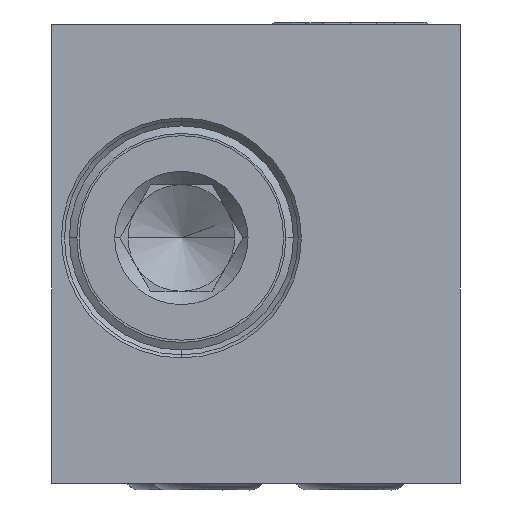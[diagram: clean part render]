
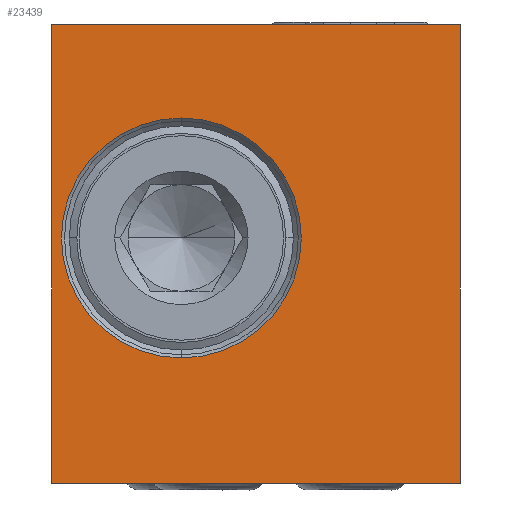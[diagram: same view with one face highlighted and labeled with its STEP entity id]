
A CAD part, left-side view. The second image highlights one B-rep face of the part: STEP entity #23439.
In plain terms, the highlighted planar face has unit normal (-1, 0, 0).
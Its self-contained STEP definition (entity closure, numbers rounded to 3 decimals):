
#4369=DIRECTION('',(0.,0.,1.));
#4370=VECTOR('',#4369,25.8);
#4371=CARTESIAN_POINT('',(-38.,11.5,-12.9));
#4372=LINE('',#4371,#4370);
#4373=DIRECTION('',(0.,-1.,0.));
#4374=VECTOR('',#4373,23.);
#4375=CARTESIAN_POINT('',(-38.,11.5,12.9));
#4376=LINE('',#4375,#4374);
#4377=DIRECTION('',(0.,0.,-1.));
#4378=VECTOR('',#4377,25.8);
#4379=CARTESIAN_POINT('',(-38.,-11.5,12.9));
#4380=LINE('',#4379,#4378);
#4381=DIRECTION('',(0.,1.,0.));
#4382=VECTOR('',#4381,23.);
#4383=CARTESIAN_POINT('',(-38.,-11.5,-12.9));
#4384=LINE('',#4383,#4382);
#4385=CARTESIAN_POINT('',(-38.,4.2,0.9));
#4386=DIRECTION('',(-1.,0.,0.));
#4387=DIRECTION('',(0.,0.,-1.));
#4388=AXIS2_PLACEMENT_3D('',#4385,#4386,#4387);
#4390=CARTESIAN_POINT('',(-38.,4.2,0.9));
#4391=DIRECTION('',(-1.,0.,0.));
#4392=DIRECTION('',(0.,0.,1.));
#4393=AXIS2_PLACEMENT_3D('',#4390,#4391,#4392);
#16015=CARTESIAN_POINT('',(-38.,11.5,12.9));
#16016=VERTEX_POINT('',#16015);
#16017=CARTESIAN_POINT('',(-38.,11.5,-12.9));
#16018=VERTEX_POINT('',#16017);
#16019=CARTESIAN_POINT('',(-38.,-11.5,12.9));
#16020=VERTEX_POINT('',#16019);
#16041=CARTESIAN_POINT('',(-38.,-11.5,-12.9));
#16042=VERTEX_POINT('',#16041);
#16087=CARTESIAN_POINT('',(-38.,4.2,-5.85));
#16088=CARTESIAN_POINT('',(-38.,4.2,7.65));
#16089=VERTEX_POINT('',#16087);
#16090=VERTEX_POINT('',#16088);
#23420=CARTESIAN_POINT('',(-38.,0.,0.));
#23421=DIRECTION('',(-1.,0.,0.));
#23422=DIRECTION('',(0.,-1.,0.));
#23423=AXIS2_PLACEMENT_3D('',#23420,#23421,#23422);
#23424=PLANE('',#23423);
#23425=ORIENTED_EDGE('',*,*,#23413,.T.);
#23426=ORIENTED_EDGE('',*,*,#21011,.T.);
#23428=ORIENTED_EDGE('',*,*,#23427,.T.);
#23430=ORIENTED_EDGE('',*,*,#23429,.T.);
#23431=EDGE_LOOP('',(#23425,#23426,#23428,#23430));
#23432=FACE_OUTER_BOUND('',#23431,.F.);
#23434=ORIENTED_EDGE('',*,*,#23433,.T.);
#23436=ORIENTED_EDGE('',*,*,#23435,.T.);
#23437=EDGE_LOOP('',(#23434,#23436));
#23438=FACE_BOUND('',#23437,.F.);
#23439=ADVANCED_FACE('',(#23432,#23438),#23424,.T.);
#4389=CIRCLE('',#4388,6.75);
#4394=CIRCLE('',#4393,6.75);
#21011=EDGE_CURVE('',#16016,#16020,#4376,.T.);
#23413=EDGE_CURVE('',#16018,#16016,#4372,.T.);
#23427=EDGE_CURVE('',#16020,#16042,#4380,.T.);
#23429=EDGE_CURVE('',#16042,#16018,#4384,.T.);
#23433=EDGE_CURVE('',#16089,#16090,#4389,.T.);
#23435=EDGE_CURVE('',#16090,#16089,#4394,.T.);
